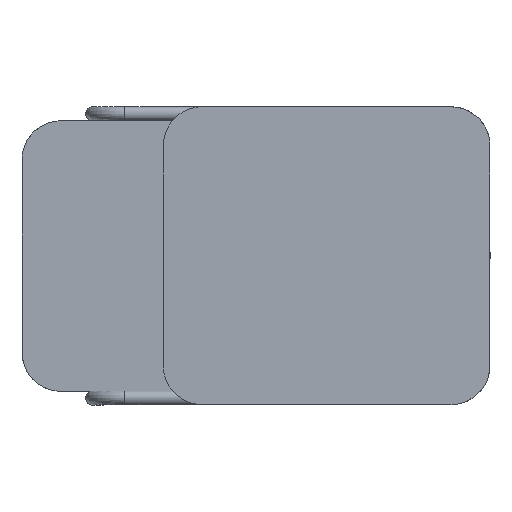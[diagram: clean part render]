
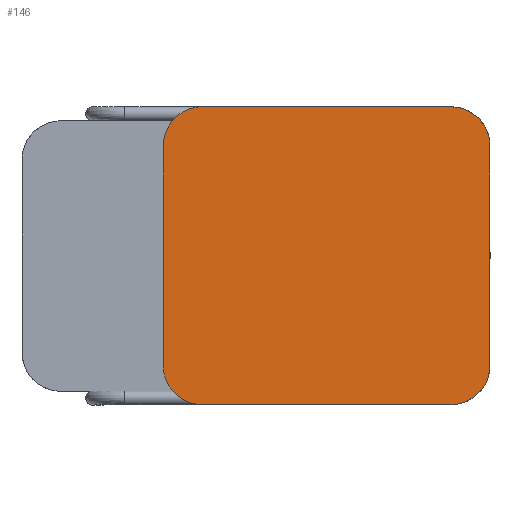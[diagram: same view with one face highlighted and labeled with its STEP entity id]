
A CAD part, top view. The second image highlights one B-rep face of the part: STEP entity #146.
In plain terms, the highlighted planar face has unit normal (0, 0, 1).
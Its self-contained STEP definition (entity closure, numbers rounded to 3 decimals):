
#146=ADVANCED_FACE('',(#320),#2286,.T.);
#320=FACE_OUTER_BOUND('',#494,.T.);
#494=EDGE_LOOP('',(#710,#711,#712,#713,#714,#715,#716,#717));
#710=ORIENTED_EDGE('',*,*,#1420,.F.);
#711=ORIENTED_EDGE('',*,*,#1417,.F.);
#712=ORIENTED_EDGE('',*,*,#1414,.F.);
#713=ORIENTED_EDGE('',*,*,#1411,.F.);
#714=ORIENTED_EDGE('',*,*,#1408,.F.);
#715=ORIENTED_EDGE('',*,*,#1405,.F.);
#716=ORIENTED_EDGE('',*,*,#1402,.F.);
#717=ORIENTED_EDGE('',*,*,#1398,.F.);
#1398=EDGE_CURVE('',#2074,#2075,#1758,.T.);
#1402=EDGE_CURVE('',#2075,#2078,#1762,.T.);
#1405=EDGE_CURVE('',#2078,#2080,#1765,.T.);
#1408=EDGE_CURVE('',#2080,#2082,#1768,.T.);
#1411=EDGE_CURVE('',#2082,#2084,#1771,.T.);
#1414=EDGE_CURVE('',#2084,#2086,#1774,.T.);
#1417=EDGE_CURVE('',#2086,#2088,#1777,.T.);
#1420=EDGE_CURVE('',#2088,#2074,#1780,.T.);
#1758=(
BOUNDED_CURVE()
B_SPLINE_CURVE(2,(#2780,#2781,#2782),.UNSPECIFIED.,.F.,.F.)
B_SPLINE_CURVE_WITH_KNOTS((3,3),(-5226.421,-5154.165),
 .UNSPECIFIED.)
CURVE()
GEOMETRIC_REPRESENTATION_ITEM()
RATIONAL_B_SPLINE_CURVE((1.,0.707,1.))
REPRESENTATION_ITEM('')
);
#1762=(
BOUNDED_CURVE()
B_SPLINE_CURVE(2,(#2790,#2791,#2792),.UNSPECIFIED.,.F.,.F.)
B_SPLINE_CURVE_WITH_KNOTS((3,3),(-5154.165,-4896.165),
 .UNSPECIFIED.)
CURVE()
GEOMETRIC_REPRESENTATION_ITEM()
RATIONAL_B_SPLINE_CURVE((1.,1.,1.))
REPRESENTATION_ITEM('')
);
#1765=(
BOUNDED_CURVE()
B_SPLINE_CURVE(2,(#2798,#2799,#2800),.UNSPECIFIED.,.F.,.F.)
B_SPLINE_CURVE_WITH_KNOTS((3,3),(-4896.165,-4823.908),
 .UNSPECIFIED.)
CURVE()
GEOMETRIC_REPRESENTATION_ITEM()
RATIONAL_B_SPLINE_CURVE((1.,0.707,1.))
REPRESENTATION_ITEM('')
);
#1768=(
BOUNDED_CURVE()
B_SPLINE_CURVE(2,(#2806,#2807,#2808),.UNSPECIFIED.,.F.,.F.)
B_SPLINE_CURVE_WITH_KNOTS((3,3),(-4823.908,-4589.7),
 .UNSPECIFIED.)
CURVE()
GEOMETRIC_REPRESENTATION_ITEM()
RATIONAL_B_SPLINE_CURVE((1.,1.,1.))
REPRESENTATION_ITEM('')
);
#1771=(
BOUNDED_CURVE()
B_SPLINE_CURVE(2,(#2814,#2815,#2816),.UNSPECIFIED.,.F.,.F.)
B_SPLINE_CURVE_WITH_KNOTS((3,3),(-4589.7,-4517.443),
 .UNSPECIFIED.)
CURVE()
GEOMETRIC_REPRESENTATION_ITEM()
RATIONAL_B_SPLINE_CURVE((1.,0.707,1.))
REPRESENTATION_ITEM('')
);
#1774=(
BOUNDED_CURVE()
B_SPLINE_CURVE(2,(#2822,#2823,#2824),.UNSPECIFIED.,.F.,.F.)
B_SPLINE_CURVE_WITH_KNOTS((3,3),(-4517.443,-4259.443),
 .UNSPECIFIED.)
CURVE()
GEOMETRIC_REPRESENTATION_ITEM()
RATIONAL_B_SPLINE_CURVE((1.,1.,1.))
REPRESENTATION_ITEM('')
);
#1777=(
BOUNDED_CURVE()
B_SPLINE_CURVE(2,(#2830,#2831,#2832),.UNSPECIFIED.,.F.,.F.)
B_SPLINE_CURVE_WITH_KNOTS((3,3),(-4259.443,-4187.187),
 .UNSPECIFIED.)
CURVE()
GEOMETRIC_REPRESENTATION_ITEM()
RATIONAL_B_SPLINE_CURVE((1.,0.707,1.))
REPRESENTATION_ITEM('')
);
#1780=(
BOUNDED_CURVE()
B_SPLINE_CURVE(2,(#2838,#2839,#2840),.UNSPECIFIED.,.F.,.F.)
B_SPLINE_CURVE_WITH_KNOTS((3,3),(-4187.187,-3952.978),
 .UNSPECIFIED.)
CURVE()
GEOMETRIC_REPRESENTATION_ITEM()
RATIONAL_B_SPLINE_CURVE((1.,1.,1.))
REPRESENTATION_ITEM('')
);
#2074=VERTEX_POINT('',#2764);
#2075=VERTEX_POINT('',#2765);
#2078=VERTEX_POINT('',#2768);
#2080=VERTEX_POINT('',#2770);
#2082=VERTEX_POINT('',#2772);
#2084=VERTEX_POINT('',#2774);
#2086=VERTEX_POINT('',#2776);
#2088=VERTEX_POINT('',#2778);
#2286=PLANE('',#2504);
#2504=AXIS2_PLACEMENT_3D('',#2762,#2633,$);
#2633=DIRECTION('',(0.,0.,1.));
#2762=CARTESIAN_POINT('',(-54.937,-43.75,450.));
#2764=CARTESIAN_POINT('',(-440.937,0.,450.));
#2765=CARTESIAN_POINT('',(-486.937,46.,450.));
#2768=CARTESIAN_POINT('',(-486.937,304.,450.));
#2770=CARTESIAN_POINT('',(-440.937,350.,450.));
#2772=CARTESIAN_POINT('',(-148.937,350.,450.));
#2774=CARTESIAN_POINT('',(-102.937,304.,450.));
#2776=CARTESIAN_POINT('',(-102.937,46.,450.));
#2778=CARTESIAN_POINT('',(-148.937,0.,450.));
#2780=CARTESIAN_POINT('',(-440.937,0.,450.));
#2781=CARTESIAN_POINT('',(-486.937,0.,450.));
#2782=CARTESIAN_POINT('',(-486.937,46.,450.));
#2790=CARTESIAN_POINT('',(-486.937,46.,450.));
#2791=CARTESIAN_POINT('',(-486.937,175.,450.));
#2792=CARTESIAN_POINT('',(-486.937,304.,450.));
#2798=CARTESIAN_POINT('',(-486.937,304.,450.));
#2799=CARTESIAN_POINT('',(-486.937,350.,450.));
#2800=CARTESIAN_POINT('',(-440.937,350.,450.));
#2806=CARTESIAN_POINT('',(-440.937,350.,450.));
#2807=CARTESIAN_POINT('',(-294.937,350.,450.));
#2808=CARTESIAN_POINT('',(-148.937,350.,450.));
#2814=CARTESIAN_POINT('',(-148.937,350.,450.));
#2815=CARTESIAN_POINT('',(-102.937,350.,450.));
#2816=CARTESIAN_POINT('',(-102.937,304.,450.));
#2822=CARTESIAN_POINT('',(-102.937,304.,450.));
#2823=CARTESIAN_POINT('',(-102.937,175.,450.));
#2824=CARTESIAN_POINT('',(-102.937,46.,450.));
#2830=CARTESIAN_POINT('',(-102.937,46.,450.));
#2831=CARTESIAN_POINT('',(-102.937,0.,450.));
#2832=CARTESIAN_POINT('',(-148.937,0.,450.));
#2838=CARTESIAN_POINT('',(-148.937,0.,450.));
#2839=CARTESIAN_POINT('',(-294.937,0.,450.));
#2840=CARTESIAN_POINT('',(-440.937,0.,450.));
